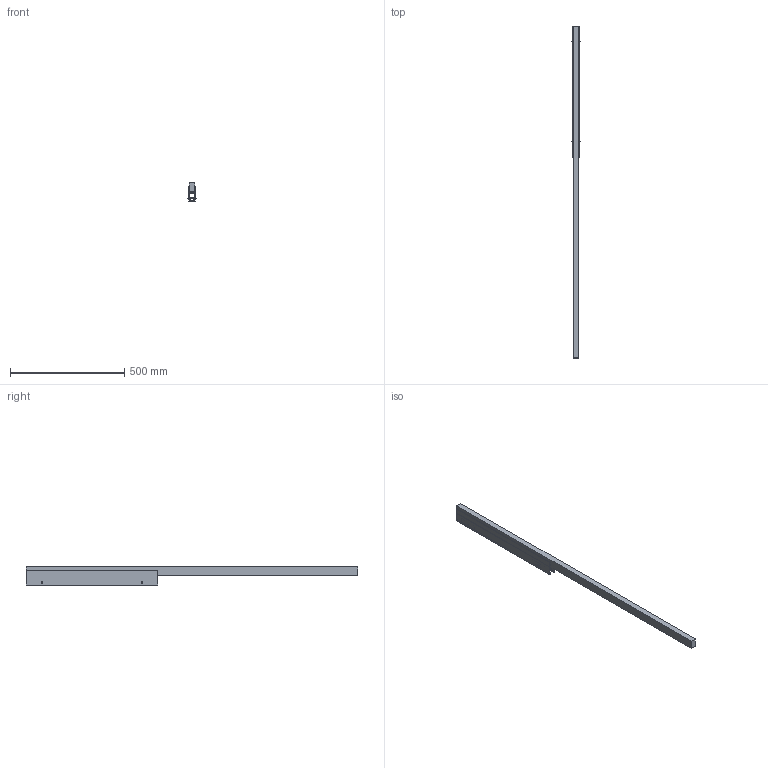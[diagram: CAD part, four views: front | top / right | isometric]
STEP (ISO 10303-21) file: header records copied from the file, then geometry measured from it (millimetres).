
FILE_DESCRIPTION(/* description */ ('Unknown'),/* implementation_level */ '2;1');
FILE_NAME(/* name */ '98839',/* time_stamp */ '2023-02-07T08:02:09-05:00',/* author */ ('Unknown'),/* organization */ ('Unknown'),/* preprocessor_version */ 'ST-DEVELOPER v18.1',/* originating_system */ 'Solid Edge',/* authorisation */ 'Unknown');
FILE_SCHEMA (('AUTOMOTIVE_DESIGN {1 0 10303 214 3 1 1}'));
Length unit declared in the file: millimetre
Products named in the file (5): CONTROCASSA 3D-ACCESSORIO; L-PR0162; MSL03327; LED-RIV001; LED-POL022
Assembly tree (8 placements, depth 2):
  CONTROCASSA 3D-ACCESSORIO
    L-PR0162
    MSL03327  x2
    LED-RIV001  x4
    LED-POL022
Bounding box: 35.51 x 1452 x 80 mm (x, y, z)
Volume: 1620922.3 mm3; surface area: 416775.5 mm2
Topology: 8 solids, 8 shells, 264 faces, 748 edges, 500 vertices
Faces by surface type: cylinder 146, plane 102, torus 12, sphere 4
Full cylindrical faces by diameter (mm): 3.8 x4, 4.1 x8, 5 x2, 7.8 x4
Entity records: 7103 total; most frequent: CARTESIAN_POINT 1521, ORIENTED_EDGE 1158, DIRECTION 1128, EDGE_CURVE 579, AXIS2_PLACEMENT_3D 413, VERTEX_POINT 394, LINE 302, VECTOR 302
